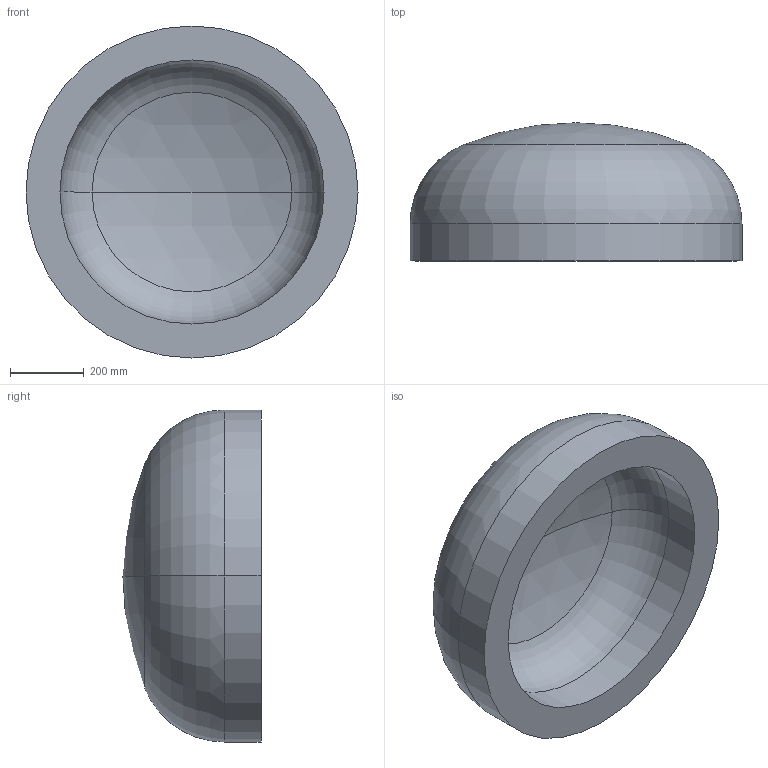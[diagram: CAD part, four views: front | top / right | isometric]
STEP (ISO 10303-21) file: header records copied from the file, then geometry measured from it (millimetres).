
FILE_DESCRIPTION (( 'STEP AP203' ), '1' );
FILE_NAME ('DIN 28013 Korbbogenform_-_Boden DIN 28013 - 900 x 100 - I - s=92.step', '2016-07-01T08:37:45', ( '' ), ( '' ), 'SwSTEP 2.0', 'SolidWorks 2013', '' );
FILE_SCHEMA (( 'CONFIG_CONTROL_DESIGN' ));
Length unit declared in the file: millimetre
Products named in the file (1): DIN 28013 Korbbogenform_-_Boden DIN 28013 - 900 x 100 - I - s=92
Bounding box: 900 x 374.53 x 900 mm (x, y, z)
Volume: 94948978.2 mm3; surface area: 2315368.3 mm2
Topology: 1 solids, 1 shells, 13 faces, 24 edges, 14 vertices
Faces by surface type: torus 4, cylinder 4, sphere 4, plane 1
Entity records: 407 total; most frequent: DIRECTION 72, CARTESIAN_POINT 52, ORIENTED_EDGE 48, AXIS2_PLACEMENT_3D 34, EDGE_CURVE 24, CIRCLE 20, VERTEX_POINT 14, EDGE_LOOP 14
